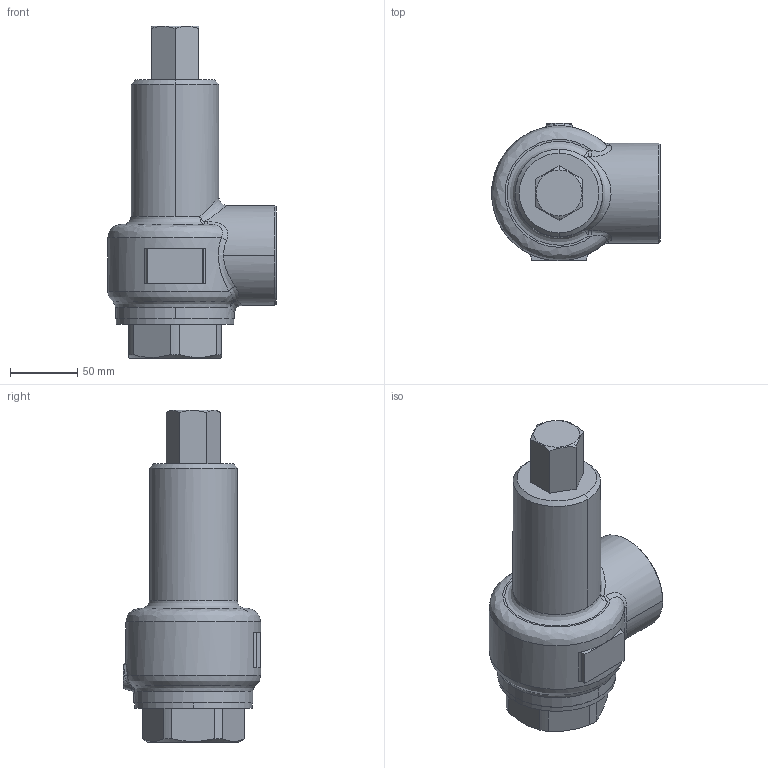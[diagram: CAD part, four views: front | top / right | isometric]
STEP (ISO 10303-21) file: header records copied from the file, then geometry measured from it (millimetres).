
FILE_DESCRIPTION( (''), '2;1');
FILE_NAME ('PC1027.9568.AL-140 50A_8718.stp','2025-07-28T13:43:10',(''),(''),'spGate 19.8.4 (****-****-****-****)','','');
FILE_SCHEMA (('AUTOMOTIVE_DESIGN'));
Length unit declared in the file: millimetre
Products named in the file (2): Assembly; AL-140 50A-3D
Assembly tree (1 placements, depth 2):
  Assembly
    AL-140 50A-3D
Bounding box: 124.93 x 102 x 246 mm (x, y, z)
Volume: 1076002.7 mm3; surface area: 81884.6 mm2
Topology: 1 solids, 1 shells, 93 faces, 221 edges, 134 vertices
Faces by surface type: bspline 43, plane 29, cylinder 19, sphere 2
Entity records: 6462 total; most frequent: CARTESIAN_POINT 2781, ORIENTED_EDGE 438, DIRECTION 338, COLOUR_RGB 313, PRESENTATION_STYLE_ASSIGNMENT 313, STYLED_ITEM 313, EDGE_CURVE 219, DRAUGHTING_PRE_DEFINED_CURVE_FONT 219
